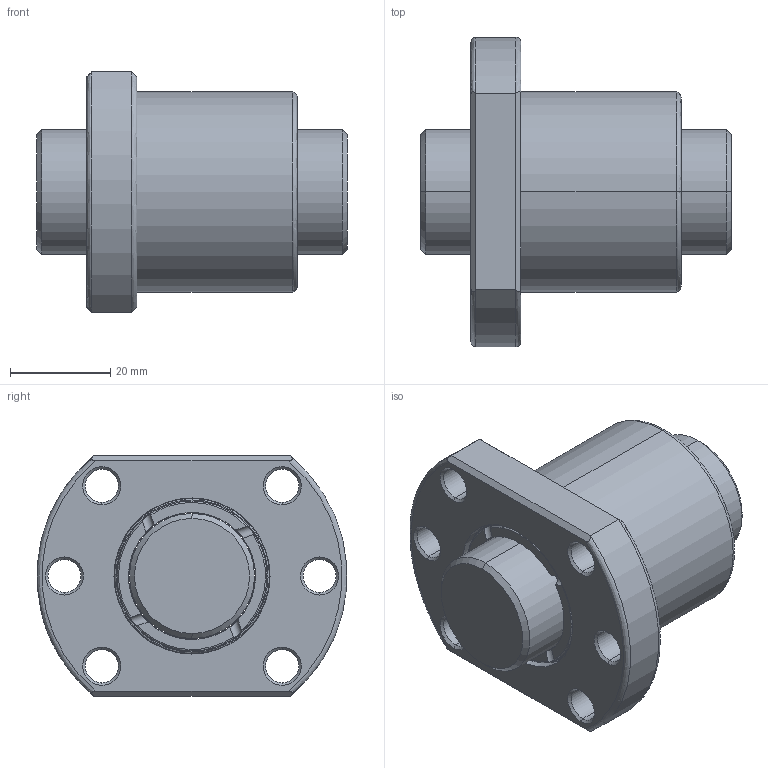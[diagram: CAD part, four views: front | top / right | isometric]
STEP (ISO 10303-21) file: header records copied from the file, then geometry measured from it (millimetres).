
FILE_DESCRIPTION (( 'STEP AP203' ), '1' );
FILE_NAME ('SFUR02504T4D-C.STEP', '2020-06-16T07:27:49', ( '' ), ( '' ), 'SwSTEP 2.0', 'SolidWorks 2013', '' );
FILE_SCHEMA (( 'CONFIG_CONTROL_DESIGN' ));
Length unit declared in the file: millimetre
Products named in the file (1): SFUR02504T4D-C
Bounding box: 62 x 61.8 x 48 mm (x, y, z)
Volume: 71305 mm3; surface area: 22697.1 mm2
Topology: 2 solids, 2 shells, 122 faces, 302 edges, 188 vertices
Faces by surface type: cylinder 54, plane 26, torus 20, cone 16, bspline 6
Entity records: 4995 total; most frequent: CARTESIAN_POINT 2019, DIRECTION 622, ORIENTED_EDGE 604, EDGE_CURVE 302, AXIS2_PLACEMENT_3D 269, VERTEX_POINT 188, CIRCLE 152, EDGE_LOOP 144
